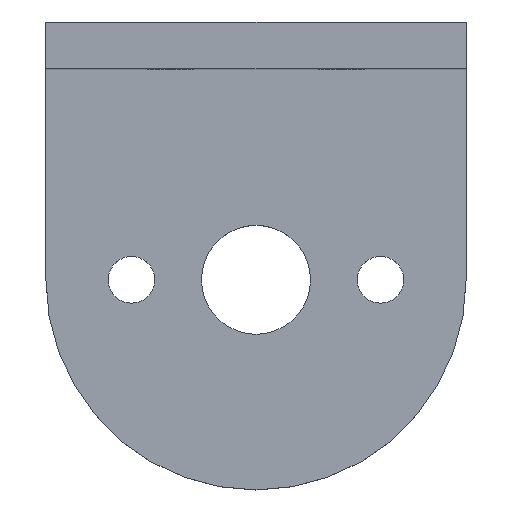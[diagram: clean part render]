
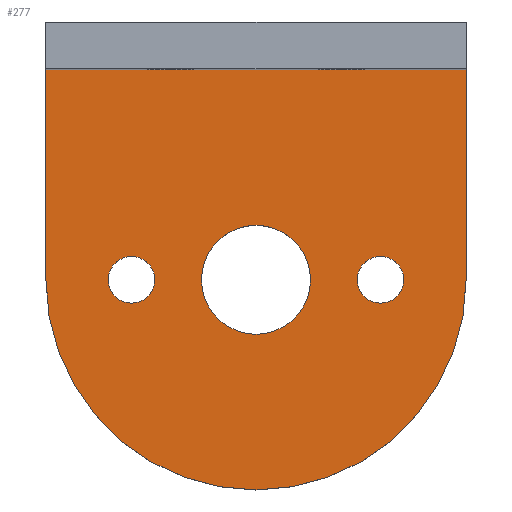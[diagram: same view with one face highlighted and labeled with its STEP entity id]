
A CAD part, top view. The second image highlights one B-rep face of the part: STEP entity #277.
In plain terms, the highlighted planar face has unit normal (0, 0, 1).
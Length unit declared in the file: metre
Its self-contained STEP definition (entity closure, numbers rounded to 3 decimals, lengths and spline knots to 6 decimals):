
#24=CIRCLE('',#304,0.0135);
#29=CIRCLE('',#313,0.0035);
#34=CIRCLE('',#320,0.0015);
#35=CIRCLE('',#321,0.0015);
#81=ORIENTED_EDGE('',*,*,#130,.T.);
#82=ORIENTED_EDGE('',*,*,#131,.T.);
#83=ORIENTED_EDGE('',*,*,#124,.T.);
#84=ORIENTED_EDGE('',*,*,#115,.T.);
#85=ORIENTED_EDGE('',*,*,#129,.F.);
#86=ORIENTED_EDGE('',*,*,#122,.F.);
#87=ORIENTED_EDGE('',*,*,#112,.F.);
#112=EDGE_CURVE('',#143,#144,#24,.T.);
#115=EDGE_CURVE('',#143,#145,#168,.T.);
#122=EDGE_CURVE('',#144,#150,#171,.T.);
#124=EDGE_CURVE('',#151,#151,#29,.T.);
#129=EDGE_CURVE('',#150,#145,#173,.T.);
#130=EDGE_CURVE('',#156,#156,#34,.T.);
#131=EDGE_CURVE('',#157,#157,#35,.T.);
#143=VERTEX_POINT('',#435);
#144=VERTEX_POINT('',#437);
#145=VERTEX_POINT('',#441);
#150=VERTEX_POINT('',#456);
#151=VERTEX_POINT('',#460);
#156=VERTEX_POINT('',#473);
#157=VERTEX_POINT('',#475);
#168=LINE('',#442,#184);
#171=LINE('',#455,#187);
#173=LINE('',#470,#189);
#184=VECTOR('',#358,1.);
#187=VECTOR('',#373,1.);
#189=VECTOR('',#389,1.);
#210=EDGE_LOOP('',(#81));
#211=EDGE_LOOP('',(#82));
#212=EDGE_LOOP('',(#83));
#213=EDGE_LOOP('',(#84,#85,#86,#87));
#246=FACE_BOUND('',#210,.T.);
#247=FACE_BOUND('',#211,.T.);
#248=FACE_BOUND('',#212,.T.);
#249=FACE_BOUND('',#213,.T.);
#268=PLANE('',#319);
#277=ADVANCED_FACE('',(#246,#247,#248,#249),#268,.F.);
#304=AXIS2_PLACEMENT_3D('',#436,#352,#353);
#313=AXIS2_PLACEMENT_3D('',#459,#377,#378);
#319=AXIS2_PLACEMENT_3D('',#471,#390,#391);
#320=AXIS2_PLACEMENT_3D('',#472,#392,#393);
#321=AXIS2_PLACEMENT_3D('',#474,#394,#395);
#352=DIRECTION('',(0.,0.,-1.));
#353=DIRECTION('',(0.,1.,0.));
#358=DIRECTION('',(0.,1.,0.));
#373=DIRECTION('',(0.,1.,0.));
#377=DIRECTION('',(0.,0.,-1.));
#378=DIRECTION('',(0.,1.,0.));
#389=DIRECTION('',(1.,0.,0.));
#390=DIRECTION('',(0.,0.,-1.));
#391=DIRECTION('',(0.,1.,0.));
#392=DIRECTION('',(0.,0.,-1.));
#393=DIRECTION('',(0.,1.,0.));
#394=DIRECTION('',(0.,0.,-1.));
#395=DIRECTION('',(0.,1.,0.));
#435=CARTESIAN_POINT('',(2.619767,1.592826,0.003));
#436=CARTESIAN_POINT('',(2.606267,1.592826,0.003));
#437=CARTESIAN_POINT('',(2.592767,1.592826,0.003));
#441=CARTESIAN_POINT('',(2.619767,1.606326,0.003));
#442=CARTESIAN_POINT('',(2.619767,1.606326,0.003));
#455=CARTESIAN_POINT('',(2.592767,1.592826,0.003));
#456=CARTESIAN_POINT('',(2.592767,1.606326,0.003));
#459=CARTESIAN_POINT('',(2.606267,1.592826,0.003));
#460=CARTESIAN_POINT('',(2.606267,1.596326,0.003));
#470=CARTESIAN_POINT('',(2.579767,1.606326,0.003));
#471=CARTESIAN_POINT('',(2.579767,1.606326,0.003));
#472=CARTESIAN_POINT('',(2.614267,1.592826,0.003));
#473=CARTESIAN_POINT('',(2.614267,1.594326,0.003));
#474=CARTESIAN_POINT('',(2.598267,1.592826,0.003));
#475=CARTESIAN_POINT('',(2.598267,1.594326,0.003));
